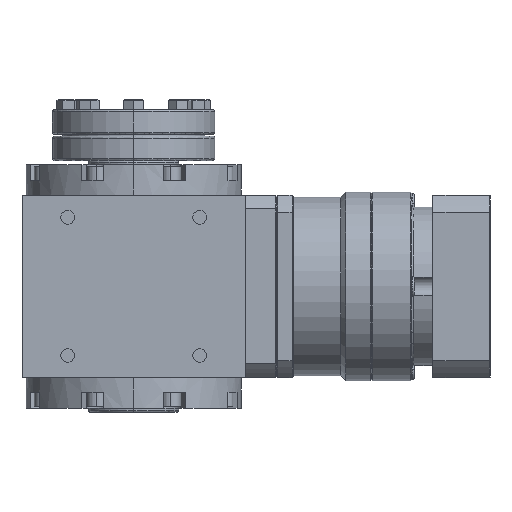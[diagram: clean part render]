
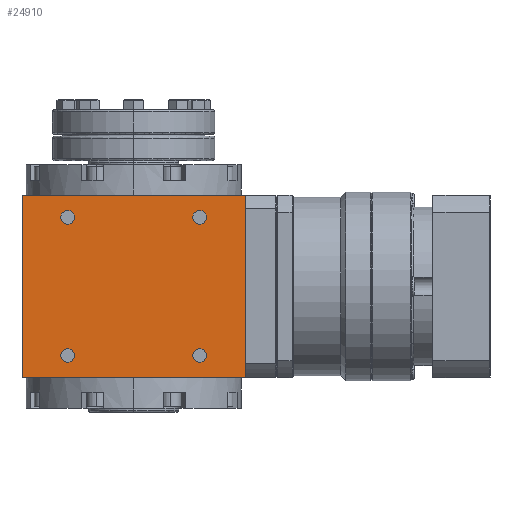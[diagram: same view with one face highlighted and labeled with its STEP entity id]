
A CAD part, left-side view. The second image highlights one B-rep face of the part: STEP entity #24910.
In plain terms, the highlighted planar face has unit normal (-1, 0, 0).
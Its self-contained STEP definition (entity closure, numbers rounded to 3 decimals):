
#348 = AXIS2_PLACEMENT_3D ( 'NONE', #19803, #20162, #19987 ) ;
#414 = ORIENTED_EDGE ( 'NONE', *, *, #28326, .T. ) ;
#873 = CARTESIAN_POINT ( 'NONE',  ( -55., -55., -45. ) ) ;
#1325 = DIRECTION ( 'NONE',  ( 0., 0., 1. ) ) ;
#1711 = ORIENTED_EDGE ( 'NONE', *, *, #10921, .T. ) ;
#1783 = FACE_BOUND ( 'NONE', #30284, .T. ) ;
#2022 = CIRCLE ( 'NONE', #29721, 3.4 ) ;
#2616 = VERTEX_POINT ( 'NONE', #18538 ) ;
#2740 = ORIENTED_EDGE ( 'NONE', *, *, #15197, .T. ) ;
#3128 = ORIENTED_EDGE ( 'NONE', *, *, #30016, .T. ) ;
#3840 = DIRECTION ( 'NONE',  ( 0., -1., 0. ) ) ;
#4294 = FACE_OUTER_BOUND ( 'NONE', #28029, .T. ) ;
#4438 = CIRCLE ( 'NONE', #9035, 3.4 ) ;
#4927 = DIRECTION ( 'NONE',  ( 0., -1., 0. ) ) ;
#5504 = CARTESIAN_POINT ( 'NONE',  ( -55., -35.9, -34. ) ) ;
#5949 = LINE ( 'NONE', #19663, #35074 ) ;
#6362 = CARTESIAN_POINT ( 'NONE',  ( -55., -55., -45. ) ) ;
#6950 = CIRCLE ( 'NONE', #27136, 3.4 ) ;
#7005 = DIRECTION ( 'NONE',  ( 0., 0., 1. ) ) ;
#7456 = EDGE_CURVE ( 'NONE', #9101, #9267, #22886, .T. ) ;
#8345 = VECTOR ( 'NONE', #8363, 1000. ) ;
#8363 = DIRECTION ( 'NONE',  ( 0., 0., 1. ) ) ;
#9035 = AXIS2_PLACEMENT_3D ( 'NONE', #18663, #10721, #13769 ) ;
#9101 = VERTEX_POINT ( 'NONE', #25389 ) ;
#9260 = CARTESIAN_POINT ( 'NONE',  ( -55., 32.5, -34. ) ) ;
#9267 = VERTEX_POINT ( 'NONE', #30786 ) ;
#9436 = DIRECTION ( 'NONE',  ( 0., -1., 0. ) ) ;
#10223 = CIRCLE ( 'NONE', #12509, 3.4 ) ;
#10721 = DIRECTION ( 'NONE',  ( 1., 0., 0. ) ) ;
#10921 = EDGE_CURVE ( 'NONE', #21708, #22277, #33176, .T. ) ;
#12421 = PLANE ( 'NONE',  #18304 ) ;
#12509 = AXIS2_PLACEMENT_3D ( 'NONE', #15710, #18057, #26738 ) ;
#12612 = FACE_BOUND ( 'NONE', #27135, .T. ) ;
#12663 = ORIENTED_EDGE ( 'NONE', *, *, #31354, .T. ) ;
#12784 = AXIS2_PLACEMENT_3D ( 'NONE', #13122, #16522, #30096 ) ;
#12871 = EDGE_CURVE ( 'NONE', #22277, #21708, #15913, .T. ) ;
#13067 = ORIENTED_EDGE ( 'NONE', *, *, #13556, .T. ) ;
#13122 = CARTESIAN_POINT ( 'NONE',  ( -55., 32.5, -34. ) ) ;
#13421 = CARTESIAN_POINT ( 'NONE',  ( -55., 35.9, 34. ) ) ;
#13556 = EDGE_CURVE ( 'NONE', #35080, #26789, #4438, .T. ) ;
#13769 = DIRECTION ( 'NONE',  ( 0., -1., 0. ) ) ;
#14765 = CARTESIAN_POINT ( 'NONE',  ( -55., 0., 45. ) ) ;
#14850 = ORIENTED_EDGE ( 'NONE', *, *, #21105, .T. ) ;
#15010 = CIRCLE ( 'NONE', #31185, 3.4 ) ;
#15197 = EDGE_CURVE ( 'NONE', #2616, #15888, #6950, .T. ) ;
#15710 = CARTESIAN_POINT ( 'NONE',  ( -55., -32.5, -34. ) ) ;
#15888 = VERTEX_POINT ( 'NONE', #28946 ) ;
#15913 = CIRCLE ( 'NONE', #348, 3.4 ) ;
#16273 = ORIENTED_EDGE ( 'NONE', *, *, #22898, .F. ) ;
#16429 = EDGE_CURVE ( 'NONE', #25385, #29904, #28347, .T. ) ;
#16522 = DIRECTION ( 'NONE',  ( 1., 0., 0. ) ) ;
#17360 = EDGE_LOOP ( 'NONE', ( #3128, #13067 ) ) ;
#17535 = DIRECTION ( 'NONE',  ( 1., 0., 0. ) ) ;
#18057 = DIRECTION ( 'NONE',  ( 1., 0., 0. ) ) ;
#18276 = LINE ( 'NONE', #34705, #21338 ) ;
#18304 = AXIS2_PLACEMENT_3D ( 'NONE', #34253, #23797, #7005 ) ;
#18531 = CARTESIAN_POINT ( 'NONE',  ( -55., -32.5, 34. ) ) ;
#18538 = CARTESIAN_POINT ( 'NONE',  ( -55., -35.9, 34. ) ) ;
#18663 = CARTESIAN_POINT ( 'NONE',  ( -55., -32.5, -34. ) ) ;
#18995 = DIRECTION ( 'NONE',  ( 1., 0., 0. ) ) ;
#19663 = CARTESIAN_POINT ( 'NONE',  ( -55., 0., -45. ) ) ;
#19803 = CARTESIAN_POINT ( 'NONE',  ( -55., 32.5, 34. ) ) ;
#19987 = DIRECTION ( 'NONE',  ( 0., -1., 0. ) ) ;
#20162 = DIRECTION ( 'NONE',  ( 1., 0., 0. ) ) ;
#20336 = CARTESIAN_POINT ( 'NONE',  ( -55., 29.1, 34. ) ) ;
#20497 = AXIS2_PLACEMENT_3D ( 'NONE', #31296, #28228, #9436 ) ;
#20724 = FACE_BOUND ( 'NONE', #29108, .T. ) ;
#21105 = EDGE_CURVE ( 'NONE', #23382, #23173, #5949, .T. ) ;
#21338 = VECTOR ( 'NONE', #1325, 1000. ) ;
#21699 = CARTESIAN_POINT ( 'NONE',  ( -55., -32.5, 34. ) ) ;
#21708 = VERTEX_POINT ( 'NONE', #20336 ) ;
#22055 = CARTESIAN_POINT ( 'NONE',  ( -55., -29.1, -34. ) ) ;
#22277 = VERTEX_POINT ( 'NONE', #13421 ) ;
#22372 = DIRECTION ( 'NONE',  ( 0., -1., 0. ) ) ;
#22700 = DIRECTION ( 'NONE',  ( 0., -1., 0. ) ) ;
#22886 = LINE ( 'NONE', #14765, #29854 ) ;
#22898 = EDGE_CURVE ( 'NONE', #23382, #9101, #18276, .T. ) ;
#23173 = VERTEX_POINT ( 'NONE', #873 ) ;
#23382 = VERTEX_POINT ( 'NONE', #32626 ) ;
#23797 = DIRECTION ( 'NONE',  ( -1., 0., 0. ) ) ;
#23893 = ORIENTED_EDGE ( 'NONE', *, *, #16429, .T. ) ;
#24306 = DIRECTION ( 'NONE',  ( 1., 0., 0. ) ) ;
#24910 = ADVANCED_FACE ( 'NONE', ( #4294, #12612, #31391, #20724, #1783 ), #12421, .T. ) ;
#25134 = ORIENTED_EDGE ( 'NONE', *, *, #28168, .T. ) ;
#25385 = VERTEX_POINT ( 'NONE', #34890 ) ;
#25389 = CARTESIAN_POINT ( 'NONE',  ( -55., 55., 45. ) ) ;
#26738 = DIRECTION ( 'NONE',  ( 0., -1., 0. ) ) ;
#26789 = VERTEX_POINT ( 'NONE', #5504 ) ;
#27135 = EDGE_LOOP ( 'NONE', ( #1711, #32547 ) ) ;
#27136 = AXIS2_PLACEMENT_3D ( 'NONE', #18531, #24306, #29916 ) ;
#28029 = EDGE_LOOP ( 'NONE', ( #16273, #14850, #25134, #31321 ) ) ;
#28168 = EDGE_CURVE ( 'NONE', #23173, #9267, #30751, .T. ) ;
#28228 = DIRECTION ( 'NONE',  ( 1., 0., 0. ) ) ;
#28326 = EDGE_CURVE ( 'NONE', #29904, #25385, #2022, .T. ) ;
#28347 = CIRCLE ( 'NONE', #12784, 3.4 ) ;
#28923 = CARTESIAN_POINT ( 'NONE',  ( -55., 29.1, -34. ) ) ;
#28946 = CARTESIAN_POINT ( 'NONE',  ( -55., -29.1, 34. ) ) ;
#29108 = EDGE_LOOP ( 'NONE', ( #414, #23893 ) ) ;
#29721 = AXIS2_PLACEMENT_3D ( 'NONE', #9260, #17535, #3840 ) ;
#29854 = VECTOR ( 'NONE', #22700, 1000. ) ;
#29904 = VERTEX_POINT ( 'NONE', #28923 ) ;
#29916 = DIRECTION ( 'NONE',  ( 0., -1., 0. ) ) ;
#30016 = EDGE_CURVE ( 'NONE', #26789, #35080, #10223, .T. ) ;
#30096 = DIRECTION ( 'NONE',  ( 0., -1., 0. ) ) ;
#30284 = EDGE_LOOP ( 'NONE', ( #2740, #12663 ) ) ;
#30751 = LINE ( 'NONE', #6362, #8345 ) ;
#30786 = CARTESIAN_POINT ( 'NONE',  ( -55., -55., 45. ) ) ;
#31185 = AXIS2_PLACEMENT_3D ( 'NONE', #21699, #18995, #4927 ) ;
#31296 = CARTESIAN_POINT ( 'NONE',  ( -55., 32.5, 34. ) ) ;
#31321 = ORIENTED_EDGE ( 'NONE', *, *, #7456, .F. ) ;
#31354 = EDGE_CURVE ( 'NONE', #15888, #2616, #15010, .T. ) ;
#31391 = FACE_BOUND ( 'NONE', #17360, .T. ) ;
#32547 = ORIENTED_EDGE ( 'NONE', *, *, #12871, .T. ) ;
#32626 = CARTESIAN_POINT ( 'NONE',  ( -55., 55., -45. ) ) ;
#33176 = CIRCLE ( 'NONE', #20497, 3.4 ) ;
#34253 = CARTESIAN_POINT ( 'NONE',  ( -55., 55., -45. ) ) ;
#34705 = CARTESIAN_POINT ( 'NONE',  ( -55., 55., -45. ) ) ;
#34890 = CARTESIAN_POINT ( 'NONE',  ( -55., 35.9, -34. ) ) ;
#35074 = VECTOR ( 'NONE', #22372, 1000. ) ;
#35080 = VERTEX_POINT ( 'NONE', #22055 ) ;
